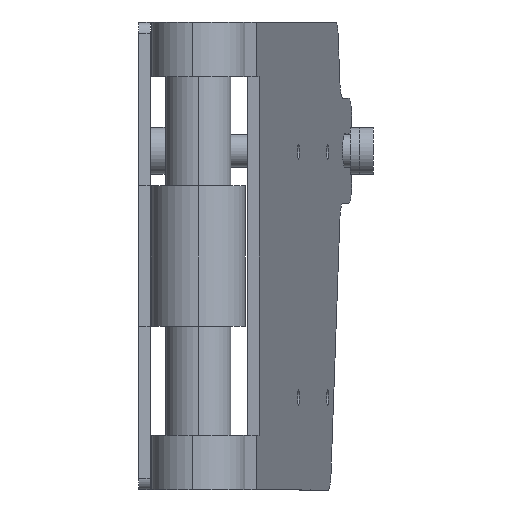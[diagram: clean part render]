
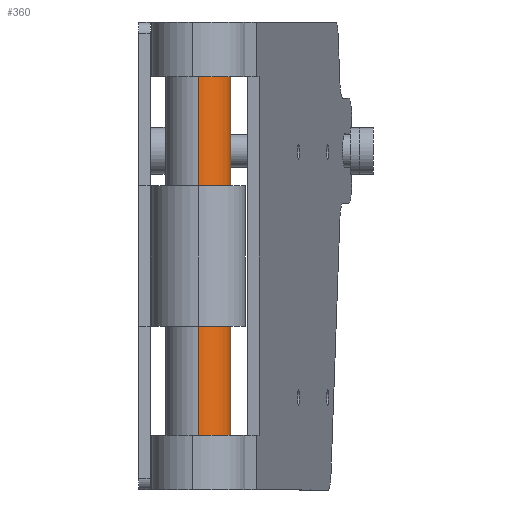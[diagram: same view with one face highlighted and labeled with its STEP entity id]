
A CAD part, left-side view. The second image highlights one B-rep face of the part: STEP entity #360.
In plain terms, the highlighted cylindrical face has radius 14 mm (diameter 28 mm), a partial arc.
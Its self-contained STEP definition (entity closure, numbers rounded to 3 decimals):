
#219 = VECTOR ( 'NONE', #2300, 1000. ) ;
#220 = AXIS2_PLACEMENT_3D ( 'NONE', #2301, #2302, #2303 ) ;
#221 = CIRCLE ( 'NONE', #226, 14. ) ;
#222 = CIRCLE ( 'NONE', #220, 14. ) ;
#226 = AXIS2_PLACEMENT_3D ( 'NONE', #2297, #2298, #2299 ) ;
#296 = VERTEX_POINT ( 'NONE', #2186 ) ;
#297 = VERTEX_POINT ( 'NONE', #2193 ) ;
#300 = VERTEX_POINT ( 'NONE', #2196 ) ;
#301 = VERTEX_POINT ( 'NONE', #2197 ) ;
#346 = AXIS2_PLACEMENT_3D ( 'NONE', #2222, #2230, #2237 ) ;
#348 = VECTOR ( 'NONE', #2291, 1000. ) ;
#360 = ADVANCED_FACE ( 'NONE', ( #2235 ), #2234, .T. ) ;
#371 = EDGE_CURVE ( 'NONE', #296, #300, #2289, .T. ) ;
#373 = EDGE_CURVE ( 'NONE', #297, #300, #221, .T. ) ;
#374 = EDGE_CURVE ( 'NONE', #301, #297, #2296, .T. ) ;
#375 = EDGE_CURVE ( 'NONE', #296, #301, #222, .T. ) ;
#534 = EDGE_LOOP ( 'NONE', ( #732, #731, #733, #734 ) ) ;
#731 = ORIENTED_EDGE ( 'NONE', *, *, #374, .T. ) ;
#732 = ORIENTED_EDGE ( 'NONE', *, *, #375, .T. ) ;
#733 = ORIENTED_EDGE ( 'NONE', *, *, #373, .T. ) ;
#734 = ORIENTED_EDGE ( 'NONE', *, *, #371, .F. ) ;
#2186 = CARTESIAN_POINT ( 'NONE',  ( -98., 0., -14. ) ) ;
#2193 = CARTESIAN_POINT ( 'NONE',  ( 100., 0., 14. ) ) ;
#2196 = CARTESIAN_POINT ( 'NONE',  ( 100., 0., -14. ) ) ;
#2197 = CARTESIAN_POINT ( 'NONE',  ( -98., 0., 14. ) ) ;
#2222 = CARTESIAN_POINT ( 'NONE',  ( 100., 0., 0. ) ) ;
#2230 = DIRECTION ( 'NONE',  ( 1., 0., 0. ) ) ;
#2234 = CYLINDRICAL_SURFACE ( 'NONE', #346, 14. ) ;
#2235 = FACE_OUTER_BOUND ( 'NONE', #534, .T. ) ;
#2237 = DIRECTION ( 'NONE',  ( 0., 0., -1. ) ) ;
#2286 = CARTESIAN_POINT ( 'NONE',  ( 100., 0., 14. ) ) ;
#2289 = LINE ( 'NONE', #2290, #348 ) ;
#2290 = CARTESIAN_POINT ( 'NONE',  ( 100., 0., -14. ) ) ;
#2291 = DIRECTION ( 'NONE',  ( 1., 0., 0. ) ) ;
#2296 = LINE ( 'NONE', #2286, #219 ) ;
#2297 = CARTESIAN_POINT ( 'NONE',  ( 100., 0., 0. ) ) ;
#2298 = DIRECTION ( 'NONE',  ( -1., 0., 0. ) ) ;
#2299 = DIRECTION ( 'NONE',  ( 0., 0., -1. ) ) ;
#2300 = DIRECTION ( 'NONE',  ( 1., 0., 0. ) ) ;
#2301 = CARTESIAN_POINT ( 'NONE',  ( -98., 0., 0. ) ) ;
#2302 = DIRECTION ( 'NONE',  ( 1., 0., 0. ) ) ;
#2303 = DIRECTION ( 'NONE',  ( 0., 0., -1. ) ) ;
